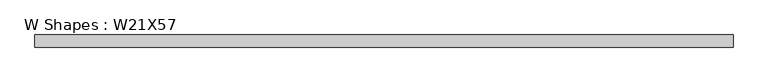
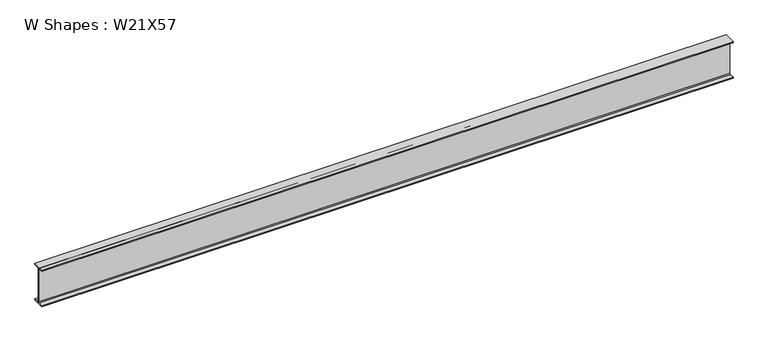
"""IFC4 building model written with IfcOpenShell, lengths in millimetres: beam geometry, W Shapes : W21X57."""

from ifc_helpers import new_model, si_unit, point, frame, frame_2d, origin, place, context, project, spatial, polyline, circle_curve, trimmed, segment, composite_curve, outline, extrude, source, transform, mapped, element, save


def w_shapes_w21x57_323fc9cd(model_context):
    return source(origin(), model_context, "Body", "SweptSolid", [
        extrude(outline(composite_curve([segment(polyline([(83.312, -251.46), (83.312, -267.97), (-83.312, -267.97), (-83.312, -251.46), (-17.8435, -251.46)]), True, "CONTINUOUS"), segment(trimmed(circle_curve(frame_2d((-17.8435, -238.76)), 12.7), [point((-17.8435, -251.46))], [point((-5.1435, -238.76))], True, "CARTESIAN"), True, "CONTINUOUS"), segment(polyline([(-5.1435, -238.76), (-5.1435, 238.76)]), True, "CONTINUOUS"), segment(trimmed(circle_curve(frame_2d((-17.8435, 238.76)), 12.7), [point((-5.1435, 238.76))], [point((-17.8435, 251.46))], True, "CARTESIAN"), True, "CONTINUOUS"), segment(polyline([(-17.8435, 251.46), (-83.312, 251.46), (-83.312, 267.97), (83.312, 267.97), (83.312, 251.46), (17.8435, 251.46)]), True, "CONTINUOUS"), segment(trimmed(circle_curve(frame_2d((17.8435, 238.76)), 12.7), [point((17.8435, 251.46))], [point((5.1435, 238.76))], True, "CARTESIAN"), True, "CONTINUOUS"), segment(polyline([(5.1435, 238.76), (5.1435, -238.76)]), True, "CONTINUOUS"), segment(trimmed(circle_curve(frame_2d((17.8435, -238.76)), 12.7), [point((5.1435, -238.76))], [point((17.8435, -251.46))], True, "CARTESIAN"), True, "CONTINUOUS"), segment(polyline([(17.8435, -251.46), (83.312, -251.46)]), True, "CONTINUOUS")], self_intersect=False)), frame((-4790.439694, 0.0, 0.0), z_axis=(1.0, 0.0, 0.0), x_axis=(0.0, 1.0, 0.0)), (0.0, 0.0, 1.0), 9580.879388),
    ])


if __name__ == "__main__":
    model = new_model("IFC4")
    model_context = context("Model", 3, world=origin())
    ifc_project = project(units=[si_unit("LENGTHUNIT", "METRE", prefix="MILLI")], contexts=[model_context])
    site = spatial("IfcSite", under=ifc_project)
    building = spatial("IfcBuilding", under=site)
    placement = place(None, origin())
    w_shapes_w21x57_shape = w_shapes_w21x57_323fc9cd(model_context)
    element("IfcBeam", 1, ObjectType="W Shapes : W21X57", at=placement, inside=building, context=model_context, shape_type="MappedRepresentation", body=[
        mapped(w_shapes_w21x57_shape, transform((0.0, 0.0, 0.0), x_axis=(1.0, 0.0, 0.0), y_axis=(0.0, 1.0, 0.0), z_axis=(0.0, 0.0, 1.0))),
    ])
    save(model, "model.ifc")
